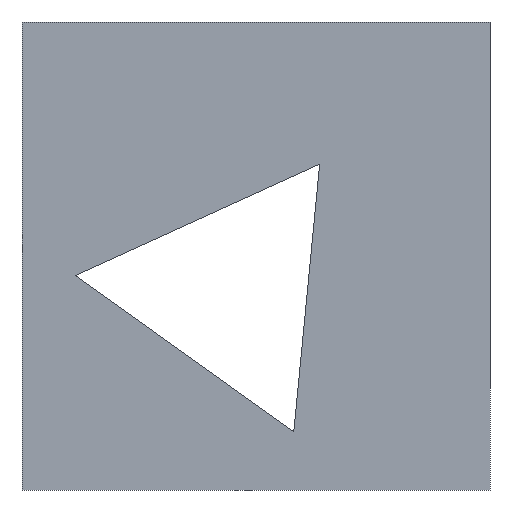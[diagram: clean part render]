
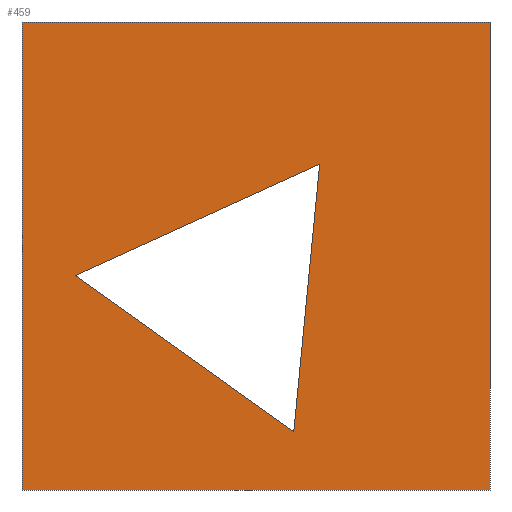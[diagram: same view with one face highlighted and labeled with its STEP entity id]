
A CAD part, front view. The second image highlights one B-rep face of the part: STEP entity #459.
In plain terms, the highlighted planar face has unit normal (0, -1, 0).
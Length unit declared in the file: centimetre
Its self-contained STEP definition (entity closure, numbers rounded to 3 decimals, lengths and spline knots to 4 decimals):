
#4 = CARTESIAN_POINT ( 'NONE',  ( 0., 0., 1000. ) ) ;
#15 = CARTESIAN_POINT ( 'NONE',  ( 113.2964, 0., 458.2024 ) ) ;
#26 = EDGE_CURVE ( 'NONE', #488, #109, #68, .T. ) ;
#34 = FACE_BOUND ( 'NONE', #546, .T. ) ;
#35 = ORIENTED_EDGE ( 'NONE', *, *, #561, .T. ) ;
#51 = ORIENTED_EDGE ( 'NONE', *, *, #225, .F. ) ;
#52 = DIRECTION ( 'NONE',  ( 0., 0., 1. ) ) ;
#66 = VECTOR ( 'NONE', #565, 100. ) ;
#68 = LINE ( 'NONE', #562, #93 ) ;
#76 = CARTESIAN_POINT ( 'NONE',  ( 0., 0., 0. ) ) ;
#93 = VECTOR ( 'NONE', #335, 100. ) ;
#101 = VERTEX_POINT ( 'NONE', #4 ) ;
#109 = VERTEX_POINT ( 'NONE', #164 ) ;
#126 = LINE ( 'NONE', #299, #359 ) ;
#164 = CARTESIAN_POINT ( 'NONE',  ( 1000., 0., 0. ) ) ;
#166 = PLANE ( 'NONE',  #318 ) ;
#171 = ORIENTED_EDGE ( 'NONE', *, *, #476, .T. ) ;
#175 = EDGE_LOOP ( 'NONE', ( #171, #521, #51, #445 ) ) ;
#225 = EDGE_CURVE ( 'NONE', #101, #488, #305, .T. ) ;
#227 = CARTESIAN_POINT ( 'NONE',  ( 1000., 0., 1000. ) ) ;
#237 = EDGE_CURVE ( 'NONE', #275, #253, #126, .T. ) ;
#249 = CARTESIAN_POINT ( 'NONE',  ( 0., 0., 1000. ) ) ;
#253 = VERTEX_POINT ( 'NONE', #15 ) ;
#275 = VERTEX_POINT ( 'NONE', #507 ) ;
#278 = CARTESIAN_POINT ( 'NONE',  ( 635.9702, 0., 696.2318 ) ) ;
#299 = CARTESIAN_POINT ( 'NONE',  ( 113.2964, 0., 458.2024 ) ) ;
#303 = VERTEX_POINT ( 'NONE', #419 ) ;
#305 = LINE ( 'NONE', #348, #409 ) ;
#310 = CARTESIAN_POINT ( 'NONE',  ( 635.9702, 0., 696.2318 ) ) ;
#318 = AXIS2_PLACEMENT_3D ( 'NONE', #342, #529, #52 ) ;
#330 = DIRECTION ( 'NONE',  ( -0.096, 0., -0.995 ) ) ;
#335 = DIRECTION ( 'NONE',  ( 0., 0., -1. ) ) ;
#342 = CARTESIAN_POINT ( 'NONE',  ( 0., 0., 1000. ) ) ;
#348 = CARTESIAN_POINT ( 'NONE',  ( 0., 0., 1000. ) ) ;
#359 = VECTOR ( 'NONE', #491, 100. ) ;
#383 = LINE ( 'NONE', #564, #402 ) ;
#396 = FACE_OUTER_BOUND ( 'NONE', #175, .T. ) ;
#402 = VECTOR ( 'NONE', #330, 100. ) ;
#409 = VECTOR ( 'NONE', #437, 100. ) ;
#410 = EDGE_CURVE ( 'NONE', #101, #303, #553, .T. ) ;
#419 = CARTESIAN_POINT ( 'NONE',  ( 0., 0., 0. ) ) ;
#433 = VECTOR ( 'NONE', #492, 100. ) ;
#437 = DIRECTION ( 'NONE',  ( 1., 0., 0. ) ) ;
#445 = ORIENTED_EDGE ( 'NONE', *, *, #410, .T. ) ;
#459 = ADVANCED_FACE ( 'NONE', ( #34, #396 ), #166, .F. ) ;
#476 = EDGE_CURVE ( 'NONE', #303, #109, #532, .T. ) ;
#479 = LINE ( 'NONE', #278, #66 ) ;
#487 = DIRECTION ( 'NONE',  ( 0., 0., -1. ) ) ;
#488 = VERTEX_POINT ( 'NONE', #227 ) ;
#491 = DIRECTION ( 'NONE',  ( -0.814, 0., 0.581 ) ) ;
#492 = DIRECTION ( 'NONE',  ( 1., 0., 0. ) ) ;
#493 = ORIENTED_EDGE ( 'NONE', *, *, #237, .T. ) ;
#507 = CARTESIAN_POINT ( 'NONE',  ( 580.7728, 0., 124.5683 ) ) ;
#521 = ORIENTED_EDGE ( 'NONE', *, *, #26, .F. ) ;
#526 = EDGE_CURVE ( 'NONE', #253, #551, #479, .T. ) ;
#529 = DIRECTION ( 'NONE',  ( 0., 1., 0. ) ) ;
#531 = VECTOR ( 'NONE', #487, 100. ) ;
#532 = LINE ( 'NONE', #76, #433 ) ;
#546 = EDGE_LOOP ( 'NONE', ( #35, #493, #566 ) ) ;
#551 = VERTEX_POINT ( 'NONE', #310 ) ;
#553 = LINE ( 'NONE', #249, #531 ) ;
#561 = EDGE_CURVE ( 'NONE', #551, #275, #383, .T. ) ;
#562 = CARTESIAN_POINT ( 'NONE',  ( 1000., 0., 1000. ) ) ;
#564 = CARTESIAN_POINT ( 'NONE',  ( 580.7728, 0., 124.5683 ) ) ;
#565 = DIRECTION ( 'NONE',  ( 0.91, 0., 0.414 ) ) ;
#566 = ORIENTED_EDGE ( 'NONE', *, *, #526, .T. ) ;
